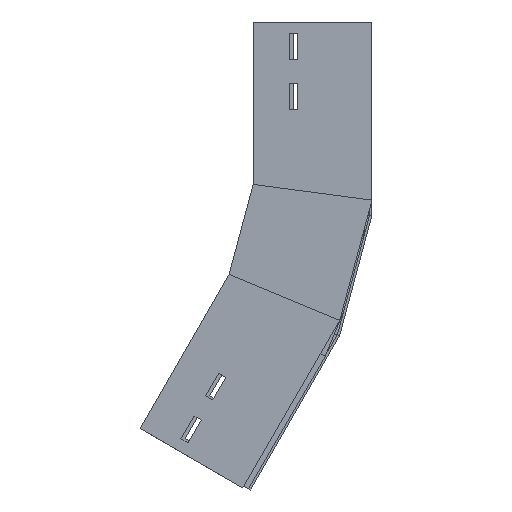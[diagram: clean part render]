
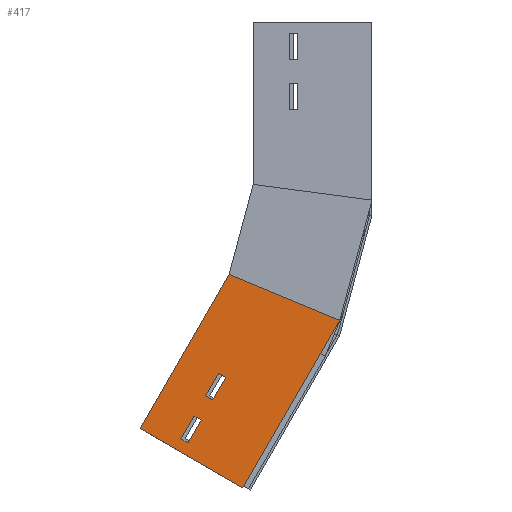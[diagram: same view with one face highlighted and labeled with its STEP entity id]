
A CAD part, left-side view. The second image highlights one B-rep face of the part: STEP entity #417.
In plain terms, the highlighted planar face has unit normal (-1, 0, 0) as drawn and (1, 0, 0) by its records, which use the part's own axes.
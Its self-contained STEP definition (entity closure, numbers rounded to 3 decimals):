
#13 = DIRECTION ( 'NONE',  ( 0., 0., -1. ) ) ;
#16 = LINE ( 'NONE', #456, #1274 ) ;
#24 = EDGE_CURVE ( 'NONE', #723, #839, #16, .T. ) ;
#47 = CARTESIAN_POINT ( 'NONE',  ( 0., 59., -51.505 ) ) ;
#58 = EDGE_CURVE ( 'NONE', #1225, #90, #259, .T. ) ;
#61 = VECTOR ( 'NONE', #747, 1000. ) ;
#90 = VERTEX_POINT ( 'NONE', #1491 ) ;
#98 = VERTEX_POINT ( 'NONE', #1030 ) ;
#116 = DIRECTION ( 'NONE',  ( 0., -0.991, -0.131 ) ) ;
#124 = VERTEX_POINT ( 'NONE', #1049 ) ;
#136 = FACE_OUTER_BOUND ( 'NONE', #614, .T. ) ;
#180 = CARTESIAN_POINT ( 'NONE',  ( 0., 66., -9.835 ) ) ;
#213 = CARTESIAN_POINT ( 'NONE',  ( 0., 0., 0. ) ) ;
#241 = LINE ( 'NONE', #477, #1444 ) ;
#248 = CARTESIAN_POINT ( 'NONE',  ( 0., 0., 0. ) ) ;
#254 = EDGE_LOOP ( 'NONE', ( #974, #526, #1393, #521 ) ) ;
#259 = LINE ( 'NONE', #341, #696 ) ;
#271 = ORIENTED_EDGE ( 'NONE', *, *, #58, .F. ) ;
#290 = CARTESIAN_POINT ( 'NONE',  ( 0., 0., 0. ) ) ;
#323 = ORIENTED_EDGE ( 'NONE', *, *, #24, .T. ) ;
#337 = EDGE_CURVE ( 'NONE', #124, #1471, #1236, .T. ) ;
#341 = CARTESIAN_POINT ( 'NONE',  ( 0., 21.094, -160.223 ) ) ;
#346 = FACE_BOUND ( 'NONE', #807, .T. ) ;
#355 = CARTESIAN_POINT ( 'NONE',  ( 0., 59., -73.505 ) ) ;
#359 = AXIS2_PLACEMENT_3D ( 'NONE', #248, #705, #804 ) ;
#360 = EDGE_CURVE ( 'NONE', #1119, #90, #1354, .T. ) ;
#390 = VECTOR ( 'NONE', #1469, 1000. ) ;
#393 = VECTOR ( 'NONE', #404, 1000. ) ;
#398 = ORIENTED_EDGE ( 'NONE', *, *, #798, .T. ) ;
#404 = DIRECTION ( 'NONE',  ( 0., 0., 1. ) ) ;
#417 = ADVANCED_FACE ( 'NONE', ( #562, #136, #346 ), #697, .F. ) ;
#451 = EDGE_CURVE ( 'NONE', #98, #1055, #1058, .T. ) ;
#456 = CARTESIAN_POINT ( 'NONE',  ( 0., 66., -31.835 ) ) ;
#457 = VECTOR ( 'NONE', #1131, 1000. ) ;
#477 = CARTESIAN_POINT ( 'NONE',  ( 0., 100., 0. ) ) ;
#515 = ORIENTED_EDGE ( 'NONE', *, *, #902, .T. ) ;
#521 = ORIENTED_EDGE ( 'NONE', *, *, #1081, .T. ) ;
#526 = ORIENTED_EDGE ( 'NONE', *, *, #337, .T. ) ;
#529 = EDGE_CURVE ( 'NONE', #1119, #1357, #721, .T. ) ;
#542 = VECTOR ( 'NONE', #1400, 1000. ) ;
#550 = CARTESIAN_POINT ( 'NONE',  ( 0., 59., -9.835 ) ) ;
#562 = FACE_BOUND ( 'NONE', #254, .T. ) ;
#563 = CARTESIAN_POINT ( 'NONE',  ( 0., 100., -149.835 ) ) ;
#564 = VECTOR ( 'NONE', #1134, 1000. ) ;
#605 = CARTESIAN_POINT ( 'NONE',  ( 0., 66., -9.835 ) ) ;
#614 = EDGE_LOOP ( 'NONE', ( #1410, #884, #737, #271 ) ) ;
#620 = CARTESIAN_POINT ( 'NONE',  ( 0., 100., 0. ) ) ;
#621 = EDGE_CURVE ( 'NONE', #1471, #833, #1108, .T. ) ;
#633 = CARTESIAN_POINT ( 'NONE',  ( 0., 59., -31.835 ) ) ;
#677 = CARTESIAN_POINT ( 'NONE',  ( 0., 66., -51.505 ) ) ;
#688 = LINE ( 'NONE', #677, #564 ) ;
#696 = VECTOR ( 'NONE', #116, 1000. ) ;
#697 = PLANE ( 'NONE',  #359 ) ;
#705 = DIRECTION ( 'NONE',  ( -1., 0., 0. ) ) ;
#721 = LINE ( 'NONE', #290, #61 ) ;
#723 = VERTEX_POINT ( 'NONE', #1416 ) ;
#731 = LINE ( 'NONE', #1078, #393 ) ;
#737 = ORIENTED_EDGE ( 'NONE', *, *, #360, .T. ) ;
#747 = DIRECTION ( 'NONE',  ( 0., 1., 0. ) ) ;
#750 = EDGE_CURVE ( 'NONE', #1396, #124, #688, .T. ) ;
#754 = ORIENTED_EDGE ( 'NONE', *, *, #451, .T. ) ;
#776 = VECTOR ( 'NONE', #1244, 1000. ) ;
#787 = CARTESIAN_POINT ( 'NONE',  ( 0., 0., 0. ) ) ;
#798 = EDGE_CURVE ( 'NONE', #1055, #723, #1034, .T. ) ;
#804 = DIRECTION ( 'NONE',  ( 0., 0., 1. ) ) ;
#807 = EDGE_LOOP ( 'NONE', ( #754, #398, #323, #515 ) ) ;
#831 = DIRECTION ( 'NONE',  ( 0., -1., 0. ) ) ;
#833 = VERTEX_POINT ( 'NONE', #355 ) ;
#839 = VERTEX_POINT ( 'NONE', #633 ) ;
#884 = ORIENTED_EDGE ( 'NONE', *, *, #529, .F. ) ;
#902 = EDGE_CURVE ( 'NONE', #839, #98, #1012, .T. ) ;
#933 = CARTESIAN_POINT ( 'NONE',  ( 0., 66., -9.835 ) ) ;
#934 = DIRECTION ( 'NONE',  ( 0., 0., -1. ) ) ;
#974 = ORIENTED_EDGE ( 'NONE', *, *, #750, .T. ) ;
#1004 = CARTESIAN_POINT ( 'NONE',  ( 0., 66., -51.505 ) ) ;
#1012 = LINE ( 'NONE', #550, #457 ) ;
#1030 = CARTESIAN_POINT ( 'NONE',  ( 0., 59., -9.835 ) ) ;
#1034 = LINE ( 'NONE', #605, #1334 ) ;
#1049 = CARTESIAN_POINT ( 'NONE',  ( 0., 66., -51.505 ) ) ;
#1055 = VERTEX_POINT ( 'NONE', #180 ) ;
#1058 = LINE ( 'NONE', #933, #542 ) ;
#1078 = CARTESIAN_POINT ( 'NONE',  ( 0., 59., -51.505 ) ) ;
#1080 = CARTESIAN_POINT ( 'NONE',  ( 0., 66., -73.505 ) ) ;
#1081 = EDGE_CURVE ( 'NONE', #833, #1396, #731, .T. ) ;
#1095 = VECTOR ( 'NONE', #1210, 1000. ) ;
#1108 = LINE ( 'NONE', #1325, #1095 ) ;
#1119 = VERTEX_POINT ( 'NONE', #213 ) ;
#1131 = DIRECTION ( 'NONE',  ( 0., 0., 1. ) ) ;
#1134 = DIRECTION ( 'NONE',  ( 0., 1., 0. ) ) ;
#1210 = DIRECTION ( 'NONE',  ( 0., -1., 0. ) ) ;
#1225 = VERTEX_POINT ( 'NONE', #563 ) ;
#1236 = LINE ( 'NONE', #1004, #390 ) ;
#1244 = DIRECTION ( 'NONE',  ( 0., 0., -1. ) ) ;
#1274 = VECTOR ( 'NONE', #831, 1000. ) ;
#1320 = EDGE_CURVE ( 'NONE', #1357, #1225, #241, .T. ) ;
#1325 = CARTESIAN_POINT ( 'NONE',  ( 0., 66., -73.505 ) ) ;
#1334 = VECTOR ( 'NONE', #13, 1000. ) ;
#1354 = LINE ( 'NONE', #787, #776 ) ;
#1357 = VERTEX_POINT ( 'NONE', #620 ) ;
#1393 = ORIENTED_EDGE ( 'NONE', *, *, #621, .T. ) ;
#1396 = VERTEX_POINT ( 'NONE', #47 ) ;
#1400 = DIRECTION ( 'NONE',  ( 0., 1., 0. ) ) ;
#1410 = ORIENTED_EDGE ( 'NONE', *, *, #1320, .F. ) ;
#1416 = CARTESIAN_POINT ( 'NONE',  ( 0., 66., -31.835 ) ) ;
#1444 = VECTOR ( 'NONE', #934, 1000. ) ;
#1469 = DIRECTION ( 'NONE',  ( 0., 0., -1. ) ) ;
#1471 = VERTEX_POINT ( 'NONE', #1080 ) ;
#1491 = CARTESIAN_POINT ( 'NONE',  ( 0., 0., -163. ) ) ;
